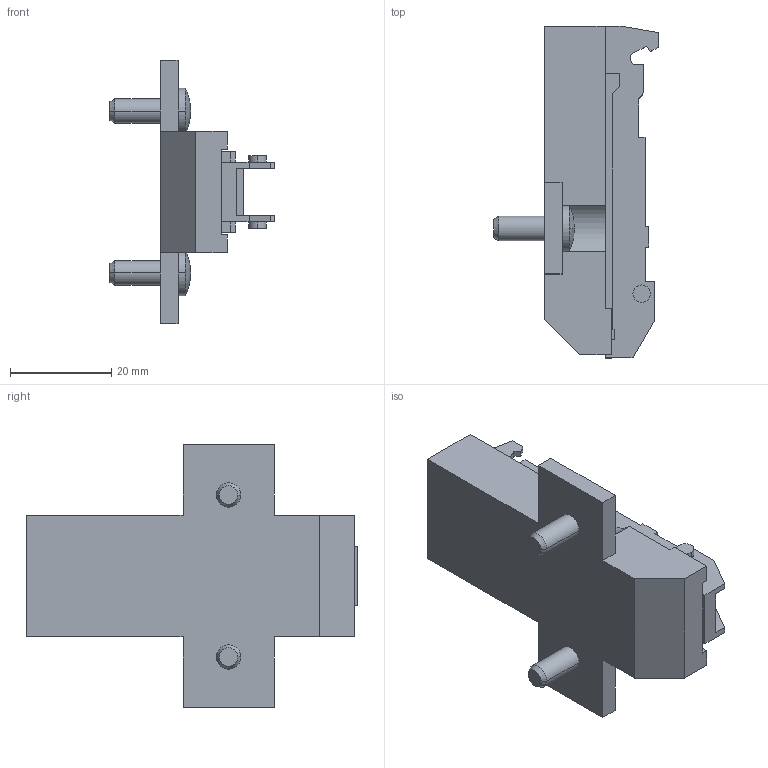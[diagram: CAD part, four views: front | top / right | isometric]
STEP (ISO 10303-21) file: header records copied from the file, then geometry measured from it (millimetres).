
FILE_DESCRIPTION (( 'STEP AP214' ), '1' );
FILE_NAME ('1D Kreuzmontageplatte 2Pkt. - Distanz 12mm.step', '2010-11-18T10:16:38', ( 'grass' ), ( '' ), 'SwSTEP 2.0', 'SolidWorks 2010', '' );
FILE_SCHEMA (( 'AUTOMOTIVE_DESIGN' ));
Length unit declared in the file: millimetre
Products named in the file (1): 1D Kreuzmontageplatte 2Pkt. - Distanz 12mm
Bounding box: 32.5 x 65.55 x 52 mm (x, y, z)
Volume: 24020.6 mm3; surface area: 8833.8 mm2
Topology: 1 solids, 1 shells, 115 faces, 317 edges, 210 vertices
Faces by surface type: plane 91, cylinder 16, cone 4, sphere 4
Entity records: 3657 total; most frequent: CARTESIAN_POINT 643, ORIENTED_EDGE 634, DIRECTION 593, EDGE_CURVE 317, VECTOR 273, LINE 273, VERTEX_POINT 210, AXIS2_PLACEMENT_3D 160
